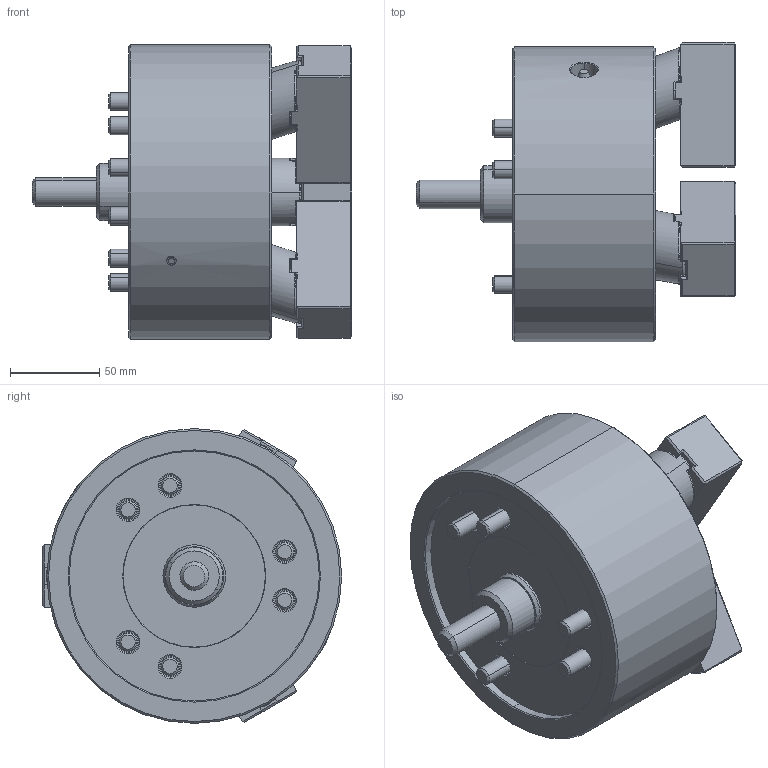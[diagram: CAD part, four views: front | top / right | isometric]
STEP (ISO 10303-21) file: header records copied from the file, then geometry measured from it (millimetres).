
FILE_DESCRIPTION (( 'STEP AP214' ), '1' );
FILE_NAME ('LU-06_UC.STEP', '2019-11-07T23:59:34', ( '' ), ( '' ), 'SwSTEP 2.0', 'SolidWorks 2017', '' );
FILE_SCHEMA (( 'AUTOMOTIVE_DESIGN' ));
Length unit declared in the file: millimetre
Products named in the file (4): 0030114030; 61P811970; LU-06_UC; 結合
Assembly tree (7 placements, depth 2):
  LU-06_UC
    61P811970  x3
    0030114030  x3
    結合
Bounding box: 179 x 167.52 x 165 mm (x, y, z)
Volume: 1881980 mm3; surface area: 195548 mm2
Topology: 7 solids, 8 shells, 1300 faces, 3229 edges, 1998 vertices
Faces by surface type: plane 739, cone 215, cylinder 182, bspline 138, torus 26
Entity records: 39481 total; most frequent: CARTESIAN_POINT 14558, ORIENTED_EDGE 5426, DIRECTION 4628, EDGE_CURVE 2713, VERTEX_POINT 1718, VECTOR 1562, LINE 1562, AXIS2_PLACEMENT_3D 1533
